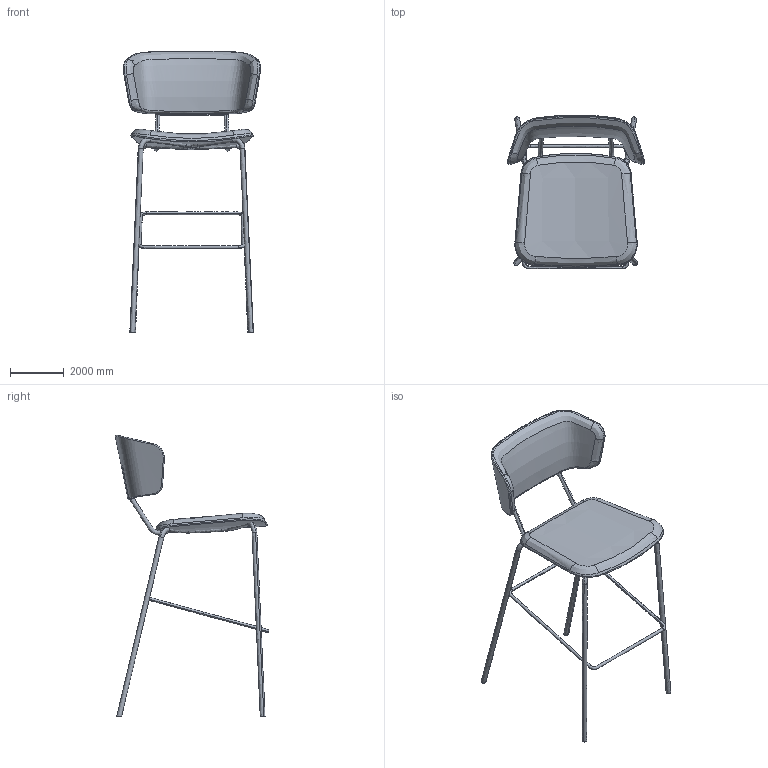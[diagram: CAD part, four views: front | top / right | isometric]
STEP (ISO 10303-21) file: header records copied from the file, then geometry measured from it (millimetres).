
FILE_DESCRIPTION(/* description */ (''),/* implementation_level */ '2;1');
FILE_NAME(/* name */ 'FLEXI1~1',/* time_stamp */ '2019-05-21T14:07:29+02:00',/* author */ (''),/* organization */ (''),/* preprocessor_version */ 'ST-DEVELOPER v15',/* originating_system */ '',/* authorisation */ '');
FILE_SCHEMA (('AUTOMOTIVE_DESIGN'));
Length unit declared in the file: centimetre
Products named in the file (1): Document
Bounding box: 5107.12 x 5731.81 x 10515.31 mm (x, y, z)
Volume: 212812946.2 mm3; surface area: 100345528 mm2
Topology: 1 solids, 12 shells, 113 faces, 330 edges, 210 vertices
Faces by surface type: bspline 107, plane 6
Entity records: 38938 total; most frequent: CARTESIAN_POINT 37009, ORIENTED_EDGE 601, EDGE_CURVE 327, VERTEX_POINT 208, B_SPLINE_CURVE_WITH_KNOTS 207, EDGE_LOOP 115, ADVANCED_FACE 113, FACE_OUTER_BOUND 113
